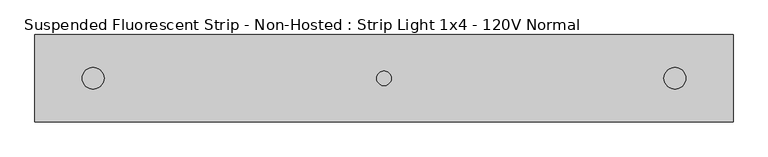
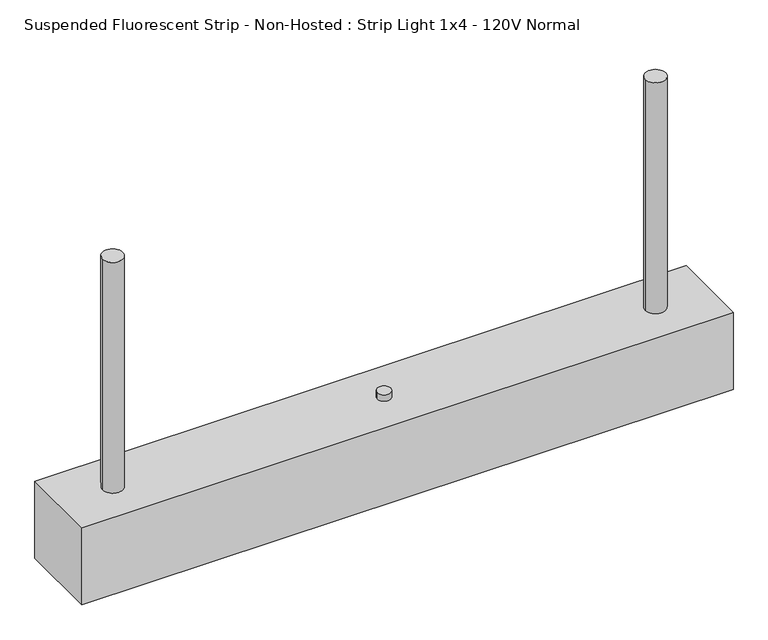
"""IFC4 building model written with IfcOpenShell, lengths in millimetres: light fixture geometry, Suspended Fluorescent Strip - Non-Hosted : Strip Light 1x4 - 120V Normal."""

import ifcopenshell
import ifcopenshell.guid

model = None  # the IFC model being written
_history = None  # IfcOwnerHistory: only IFC2X3 demands one
_inside = {}  # id of a spatial element -> (the spatial element, [elements in it])
_under = {}  # id of a project, library or spatial element -> (it, [spatial elements below it])
_declared = {}  # id of a project -> (the project, [libraries it declares])
_typed = {}  # id of a type object -> (the type object, [elements of that type])
_made_of = {}  # id of a material, layer set ... -> (it, [elements and type objects made of it])


def new_model(schema):
    """Start an empty IFC model of exactly this schema.

    Asked for "IFC4X3", IfcOpenShell would pick the latest addendum, in which some entities
    have other attributes; the version numbers below select the first issue.
    IFC2X3 requires an IfcOwnerHistory on every rooted entity: one is made here for all.
    """
    global model, _history
    if schema == "IFC4X3":
        model = ifcopenshell.file(schema_version=(4, 3, 0, 0))
    else:
        model = ifcopenshell.file(schema=schema)
    _inside.clear()
    _under.clear()
    _declared.clear()
    _typed.clear()
    _made_of.clear()
    _history = None
    if model.schema == "IFC2X3":
        org = make("IfcOrganization", Name="unknown")
        user = make(
            "IfcPersonAndOrganization",
            ThePerson=make("IfcPerson", FamilyName="unknown"),
            TheOrganization=org,
        )
        app = make(
            "IfcApplication",
            ApplicationDeveloper=org,
            Version="unknown",
            ApplicationFullName="unknown",
            ApplicationIdentifier="unknown",
        )
        _history = make(
            "IfcOwnerHistory",
            OwningUser=user,
            OwningApplication=app,
            ChangeAction="ADDED",
            CreationDate=0,
        )
    return model


def make(cls, **values):
    """One entity of the class cls with the attributes given. An attribute that is None is left unset."""
    return model.create_entity(
        cls, **{name: value for name, value in values.items() if value is not None}
    )


def rooted(cls, **values):
    """An entity with a GlobalId (a new one), such as an element, a storey or a relation."""
    return make(cls, GlobalId=ifcopenshell.guid.new(), OwnerHistory=_history, **values)


def si_unit(unit_type, name, prefix=None):
    """IfcSIUnit, for example si_unit("LENGTHUNIT", "METRE", prefix="MILLI")."""
    return make("IfcSIUnit", UnitType=unit_type, Prefix=prefix, Name=name)


def assignment(units):
    """IfcUnitAssignment: the units of a project."""
    return None if units is None else make("IfcUnitAssignment", Units=units)


def point(xyz):
    """IfcCartesianPoint."""
    return None if xyz is None else make("IfcCartesianPoint", Coordinates=xyz)


def direction(xyz):
    """IfcDirection."""
    return None if xyz is None else make("IfcDirection", DirectionRatios=xyz)


def frame(location, z_axis=None, x_axis=None):
    """IfcAxis2Placement3D, a coordinate frame: its origin and axes. An axis left out is left unset."""
    return make(
        "IfcAxis2Placement3D",
        Location=point(location),
        Axis=direction(z_axis),
        RefDirection=direction(x_axis),
    )


def frame_2d(location, x_axis=None):
    """IfcAxis2Placement2D, a coordinate frame in the plane: its origin and x axis."""
    return make(
        "IfcAxis2Placement2D", Location=point(location), RefDirection=direction(x_axis)
    )


def origin():
    """The frame at (0, 0, 0) with its axes left unset."""
    return frame((0.0, 0.0, 0.0))


def origin_with_axes():
    """The frame at (0, 0, 0) with the z axis (0, 0, 1) and the x axis (1, 0, 0) written out."""
    return frame((0.0, 0.0, 0.0), z_axis=(0.0, 0.0, 1.0), x_axis=(1.0, 0.0, 0.0))


def origin_2d():
    """The frame at (0, 0) in the plane with its x axis left unset."""
    return frame_2d((0.0, 0.0))


def place(relative_to, where):
    """IfcLocalPlacement: puts the frame where relative to a parent placement (None: the world)."""
    return make(
        "IfcLocalPlacement", PlacementRelTo=relative_to, RelativePlacement=where
    )


def context(
    kind, dimensions, precision=None, world=None, true_north=None, identifier=None
):
    """IfcGeometricRepresentationContext, for example the 3D "Model" context."""
    return make(
        "IfcGeometricRepresentationContext",
        ContextIdentifier=identifier,
        ContextType=kind,
        CoordinateSpaceDimension=dimensions,
        Precision=precision,
        WorldCoordinateSystem=world,
        TrueNorth=true_north,
    )


def project(units=None, contexts=None):
    """IfcProject with its units and contexts."""
    return rooted(
        "IfcProject",
        Name="project",
        RepresentationContexts=contexts,
        UnitsInContext=assignment(units),
    )


def spatial(cls, under=None, at=None, **own):
    """A site, building, storey or space (cls), placed at a placement, below another one or the project."""
    s = rooted(cls, ObjectPlacement=at, **own)
    if under is not None:
        _under.setdefault(under.id(), (under, []))[1].append(s)
    return s


def polyline(points):
    """IfcPolyline through the points."""
    return make("IfcPolyline", Points=[point(p) for p in points])


def circle_curve(where, radius):
    """IfcCircle in the frame where."""
    return make("IfcCircle", Position=where, Radius=radius)


def trimmed(basis, trim1, trim2, sense, master):
    """IfcTrimmedCurve: the piece of a basis curve between two trims."""
    return make(
        "IfcTrimmedCurve",
        BasisCurve=basis,
        Trim1=trim1,
        Trim2=trim2,
        SenseAgreement=sense,
        MasterRepresentation=master,
    )


def segment(curve, same_sense, transition):
    """IfcCompositeCurveSegment."""
    return make(
        "IfcCompositeCurveSegment",
        Transition=transition,
        SameSense=same_sense,
        ParentCurve=curve,
    )


def composite_curve(segments, self_intersect=None):
    """IfcCompositeCurve: segments joined end to end."""
    return make("IfcCompositeCurve", Segments=segments, SelfIntersect=self_intersect)


def outline(outer, holes=None, kind="AREA"):
    """IfcArbitraryClosedProfileDef: a profile drawn as a closed curve; with holes, ...WithVoids."""
    if holes is None:
        return make("IfcArbitraryClosedProfileDef", ProfileType=kind, OuterCurve=outer)
    return make(
        "IfcArbitraryProfileDefWithVoids",
        ProfileType=kind,
        OuterCurve=outer,
        InnerCurves=holes,
    )


def extrude(swept, where, along, depth):
    """IfcExtrudedAreaSolid: the profile swept, set in the frame where, extruded along a direction by depth."""
    return make(
        "IfcExtrudedAreaSolid",
        SweptArea=swept,
        Position=where,
        ExtrudedDirection=direction(along),
        Depth=depth,
    )


def shape(context_of_items, identifier, shape_type, items):
    """IfcShapeRepresentation: the items that make up one representation, for example the "Body"."""
    return make(
        "IfcShapeRepresentation",
        ContextOfItems=context_of_items,
        RepresentationIdentifier=identifier,
        RepresentationType=shape_type,
        Items=items,
    )


def source(mapping_origin, context_of_items, identifier, shape_type, items):
    """IfcRepresentationMap: a shape defined once, which mapped items show again and again."""
    return make(
        "IfcRepresentationMap",
        MappingOrigin=mapping_origin,
        MappedRepresentation=shape(context_of_items, identifier, shape_type, items),
    )


def transform(
    local_origin,
    x_axis=None,
    y_axis=None,
    z_axis=None,
    scale=None,
    scale2=None,
    scale3=None,
    uniform=True,
):
    """IfcCartesianTransformationOperator3D, or its non-uniform kind. x_axis, y_axis, z_axis: its Axis1, 2, 3."""
    if uniform:
        return make(
            "IfcCartesianTransformationOperator3D",
            Axis1=direction(x_axis),
            Axis2=direction(y_axis),
            LocalOrigin=point(local_origin),
            Scale=scale,
            Axis3=direction(z_axis),
        )
    return make(
        "IfcCartesianTransformationOperator3DnonUniform",
        Axis1=direction(x_axis),
        Axis2=direction(y_axis),
        LocalOrigin=point(local_origin),
        Scale=scale,
        Axis3=direction(z_axis),
        Scale2=scale2,
        Scale3=scale3,
    )


def mapped(mapping_source, mapping_target):
    """IfcMappedItem: shows the shape of a source again, moved by a transform."""
    return make(
        "IfcMappedItem", MappingSource=mapping_source, MappingTarget=mapping_target
    )


def made_of(thing, what):
    """Note that an element or type object is made of a material, layer set ...; save() writes the relation."""
    if what is not None:
        _made_of.setdefault(what.id(), (what, []))[1].append(thing)
    return thing


def element(
    cls,
    number,
    at=None,
    inside=None,
    cuts=None,
    type_object=None,
    material=None,
    context=None,
    identifier="Body",
    shape_type=None,
    held_by="IfcProductDefinitionShape",
    body=None,
    shapes=None,
    **own,
):
    """One element of the class cls, such as IfcWall. Its Tag is "e" and its number.

    at: its placement. inside: the storey or other place that contains it. cuts: it is an
    opening in that element (IfcRelVoidsElement). A single representation is given by context,
    identifier, shape_type and body (its items); several are given by shapes. held_by: the class
    of the entity that holds the representations. save() writes the other relations.
    """
    e = rooted(cls, Tag="e%d" % number, ObjectPlacement=at, **own)
    if body is not None:
        shapes = [shape(context, identifier, shape_type, body)]
    if shapes is not None:
        e.Representation = make(held_by, Representations=shapes)
    if inside is not None:
        _inside.setdefault(inside.id(), (inside, []))[1].append(e)
    if cuts is not None:
        rooted(
            "IfcRelVoidsElement", RelatingBuildingElement=cuts, RelatedOpeningElement=e
        )
    if type_object is not None:
        _typed.setdefault(type_object.id(), (type_object, []))[1].append(e)
    return made_of(e, material)


def aggregate(whole, parts):
    """IfcRelAggregates: a whole, such as a stair, and the parts it consists of."""
    return rooted("IfcRelAggregates", RelatingObject=whole, RelatedObjects=parts)


def save(model, path):
    """Write the relations noted so far, then the file.

    IfcRelAggregates (storeys below a building ...), IfcRelContainedInSpatialStructure (elements
    in a storey), IfcRelDefinesByType, IfcRelAssociatesMaterial and IfcRelDeclares: one each for
    every whole, place, type object, material and project.
    """
    for whole, parts in _under.values():
        aggregate(whole, parts)
    for where, things in _inside.values():
        rooted(
            "IfcRelContainedInSpatialStructure",
            RelatedElements=things,
            RelatingStructure=where,
        )
    for kind, things in _typed.values():
        rooted("IfcRelDefinesByType", RelatedObjects=things, RelatingType=kind)
    for what, things in _made_of.values():
        rooted("IfcRelAssociatesMaterial", RelatedObjects=things, RelatingMaterial=what)
    for by, libraries in _declared.values():
        rooted("IfcRelDeclares", RelatingContext=by, RelatedDefinitions=libraries)
    model.write(path)


def suspended_fluorescent_strip_non_hosted_strip_light_1x4_120v_a3f3b401(model_context):
    return source(origin(), model_context, "Body", "SweptSolid", [
        extrude(outline(composite_curve([segment(trimmed(circle_curve(frame_2d((508.0, 0.0)), 19.05), [point((527.05, 0.0))], [point((488.95, 0.0))], False, "CARTESIAN"), True, "CONTINUOUS"), segment(trimmed(circle_curve(frame_2d((508.0, 0.0)), 19.05), [point((488.95, 0.0))], [point((527.05, 0.0))], False, "CARTESIAN"), True, "CONTINUOUS")], self_intersect=False)), frame((0.0, 0.0, 152.4), z_axis=(0.0, 0.0, 1.0), x_axis=(1.0, 0.0, 0.0)), (0.0, 0.0, 1.0), 457.2),
        extrude(outline(composite_curve([segment(trimmed(circle_curve(frame_2d((-508.0, 0.0)), 19.05), [point((-488.95, 0.0))], [point((-527.05, 0.0))], False, "CARTESIAN"), True, "CONTINUOUS"), segment(trimmed(circle_curve(frame_2d((-508.0, 0.0)), 19.05), [point((-527.05, 0.0))], [point((-488.95, 0.0))], False, "CARTESIAN"), True, "CONTINUOUS")], self_intersect=False)), frame((0.0, 0.0, 152.4), z_axis=(0.0, 0.0, 1.0), x_axis=(1.0, 0.0, 0.0)), (0.0, 0.0, 1.0), 457.2),
        extrude(outline(composite_curve([segment(trimmed(circle_curve(origin_2d(), 12.7), [point((-12.7, 0.0))], [point((12.7, 0.0))], False, "CARTESIAN"), True, "CONTINUOUS"), segment(trimmed(circle_curve(origin_2d(), 12.7), [point((12.7, 0.0))], [point((-12.7, 0.0))], False, "CARTESIAN"), True, "CONTINUOUS")], self_intersect=False)), frame((0.0, 0.0, 152.4), z_axis=(0.0, 0.0, 1.0), x_axis=(1.0, 0.0, 0.0)), (0.0, 0.0, 1.0), 12.7),
        extrude(outline(polyline([(609.6, -76.2), (-609.6, -76.2), (-609.6, 76.2), (609.6, 76.2), (609.6, -76.2)])), origin_with_axes(), (0.0, 0.0, 1.0), 152.4),
    ])


if __name__ == "__main__":
    model = new_model("IFC4")
    model_context = context("Model", 3, world=origin())
    ifc_project = project(units=[si_unit("LENGTHUNIT", "METRE", prefix="MILLI")], contexts=[model_context])
    site = spatial("IfcSite", under=ifc_project)
    building = spatial("IfcBuilding", under=site)
    placement = place(None, origin())
    suspended_fluorescent_strip_non_hosted_strip_light_1x4_120v_shape = suspended_fluorescent_strip_non_hosted_strip_light_1x4_120v_a3f3b401(model_context)
    element("IfcLightFixture", 1, ObjectType="Suspended Fluorescent Strip - Non-Hosted : Strip Light 1x4 - 120V Normal", at=placement, inside=building, context=model_context, shape_type="MappedRepresentation", body=[
        mapped(suspended_fluorescent_strip_non_hosted_strip_light_1x4_120v_shape, transform((0.0, 0.0, 0.0), x_axis=(1.0, 0.0, 0.0), y_axis=(0.0, 1.0, 0.0), z_axis=(0.0, 0.0, 1.0))),
    ])
    save(model, "model.ifc")
